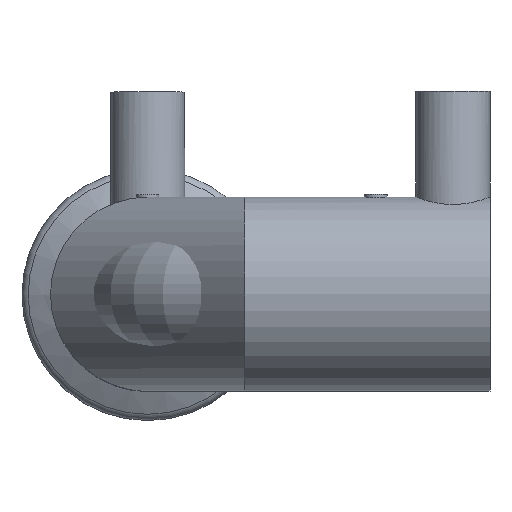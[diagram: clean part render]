
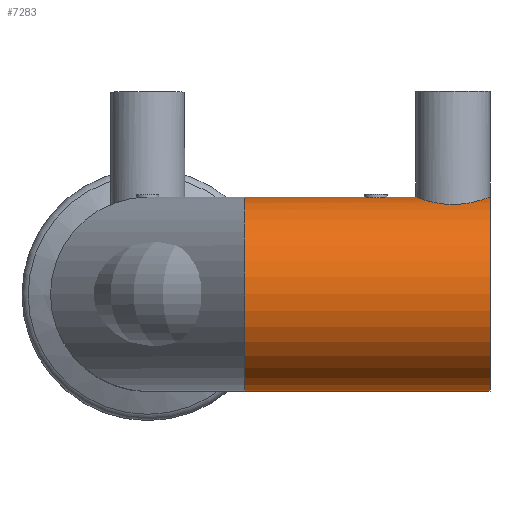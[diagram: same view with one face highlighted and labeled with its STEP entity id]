
A CAD part, top view. The second image highlights one B-rep face of the part: STEP entity #7283.
In plain terms, the highlighted cylindrical face has radius 17 mm (diameter 34 mm), a full revolution.
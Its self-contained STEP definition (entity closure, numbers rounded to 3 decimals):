
#938=CIRCLE('',#9476,17.);
#939=CIRCLE('',#9477,17.);
#1329=ORIENTED_EDGE('',*,*,#3685,.T.);
#1330=ORIENTED_EDGE('',*,*,#3686,.T.);
#1331=ORIENTED_EDGE('',*,*,#3687,.F.);
#1332=ORIENTED_EDGE('',*,*,#3688,.F.);
#3685=EDGE_CURVE('',#4863,#4863,#5593,.T.);
#3686=EDGE_CURVE('',#4864,#4864,#938,.F.);
#3687=EDGE_CURVE('',#4865,#4865,#939,.F.);
#3688=EDGE_CURVE('',#4865,#4865,#5594,.T.);
#4863=VERTEX_POINT('',#12304);
#4864=VERTEX_POINT('',#12306);
#4865=VERTEX_POINT('',#12308);
#5593=B_SPLINE_CURVE_WITH_KNOTS('',3,(#12293,#12294,#12295,#12296,#12297,
#12298,#12299,#12300,#12301,#12302,#12303),.UNSPECIFIED.,.T.,.F.,(1,1,1,
1,1,1,1,1,1,1,1,1,1,1,1),(-0.005,-0.003,-0.002,
0.,0.002,0.003,0.005,0.006,
0.008,0.009,0.011,0.013,
0.014,0.016,0.017),.UNSPECIFIED.);
#5594=B_SPLINE_CURVE_WITH_KNOTS('',3,(#12309,#12310,#12311,#12312,#12313,
#12314,#12315,#12316,#12317,#12318,#12319,#12320,#12321,#12322,#12323,#12324,
#12325,#12326,#12327),.UNSPECIFIED.,.T.,.F.,(1,1,1,1,1,1,1,1,1,1,1,1,1,
1,1,1,1,1,1,1,1,1,1),(-0.008,-0.005,-0.003,
0.,0.003,0.005,0.008,
0.01,0.013,0.015,0.018,
0.021,0.023,0.026,0.028,
0.031,0.033,0.036,0.038,
0.041,0.044,0.046,0.049),
 .UNSPECIFIED.);
#6031=EDGE_LOOP('',(#1329));
#6032=EDGE_LOOP('',(#1330));
#6033=EDGE_LOOP('',(#1331,#1332));
#6609=FACE_BOUND('',#6031,.T.);
#6610=FACE_BOUND('',#6032,.T.);
#6611=FACE_BOUND('',#6033,.T.);
#7187=CYLINDRICAL_SURFACE('',#9475,17.);
#7283=ADVANCED_FACE('',(#6609,#6610,#6611),#7187,.T.);
#9475=AXIS2_PLACEMENT_3D('',#12292,#10371,#10372);
#9476=AXIS2_PLACEMENT_3D('',#12305,#10373,#10374);
#9477=AXIS2_PLACEMENT_3D('',#12307,#10375,#10376);
#10371=DIRECTION('',(-1.,0.,0.));
#10372=DIRECTION('',(0.,0.,1.));
#10373=DIRECTION('',(-1.,0.,0.));
#10374=DIRECTION('',(0.,0.,-1.));
#10375=DIRECTION('',(-1.,0.,0.));
#10376=DIRECTION('',(0.,0.,-1.));
#12292=CARTESIAN_POINT('',(60.,0.,60.));
#12293=CARTESIAN_POINT('',(38.431,16.941,58.434));
#12294=CARTESIAN_POINT('',(40.,16.852,57.783));
#12295=CARTESIAN_POINT('',(41.567,16.941,58.434));
#12296=CARTESIAN_POINT('',(42.216,17.029,59.998));
#12297=CARTESIAN_POINT('',(41.568,16.941,61.567));
#12298=CARTESIAN_POINT('',(40.,16.852,62.216));
#12299=CARTESIAN_POINT('',(38.435,16.941,61.569));
#12300=CARTESIAN_POINT('',(37.784,17.029,60.002));
#12301=CARTESIAN_POINT('',(38.431,16.941,58.434));
#12302=CARTESIAN_POINT('',(40.,16.852,57.783));
#12303=CARTESIAN_POINT('',(41.567,16.941,58.434));
#12304=CARTESIAN_POINT('',(40.,16.882,58.));
#12305=CARTESIAN_POINT('',(17.,0.,60.));
#12306=CARTESIAN_POINT('',(17.,0.,43.));
#12307=CARTESIAN_POINT('',(60.,0.,60.));
#12308=CARTESIAN_POINT('',(60.,17.,60.));
#12309=CARTESIAN_POINT('',(59.654,16.863,62.569));
#12310=CARTESIAN_POINT('',(60.174,17.069,60.002));
#12311=CARTESIAN_POINT('',(59.652,16.862,57.422));
#12312=CARTESIAN_POINT('',(58.209,16.369,55.285));
#12313=CARTESIAN_POINT('',(56.075,15.859,53.849));
#12314=CARTESIAN_POINT('',(53.507,15.633,53.326));
#12315=CARTESIAN_POINT('',(50.927,15.858,53.846));
#12316=CARTESIAN_POINT('',(48.786,16.37,55.289));
#12317=CARTESIAN_POINT('',(47.348,16.863,57.427));
#12318=CARTESIAN_POINT('',(46.827,17.069,59.997));
#12319=CARTESIAN_POINT('',(47.346,16.863,62.573));
#12320=CARTESIAN_POINT('',(48.791,16.369,64.717));
#12321=CARTESIAN_POINT('',(50.93,15.858,66.154));
#12322=CARTESIAN_POINT('',(53.502,15.633,66.674));
#12323=CARTESIAN_POINT('',(56.076,15.859,66.152));
#12324=CARTESIAN_POINT('',(58.214,16.37,64.712));
#12325=CARTESIAN_POINT('',(59.654,16.863,62.569));
#12326=CARTESIAN_POINT('',(60.174,17.069,60.002));
#12327=CARTESIAN_POINT('',(59.652,16.862,57.422));
